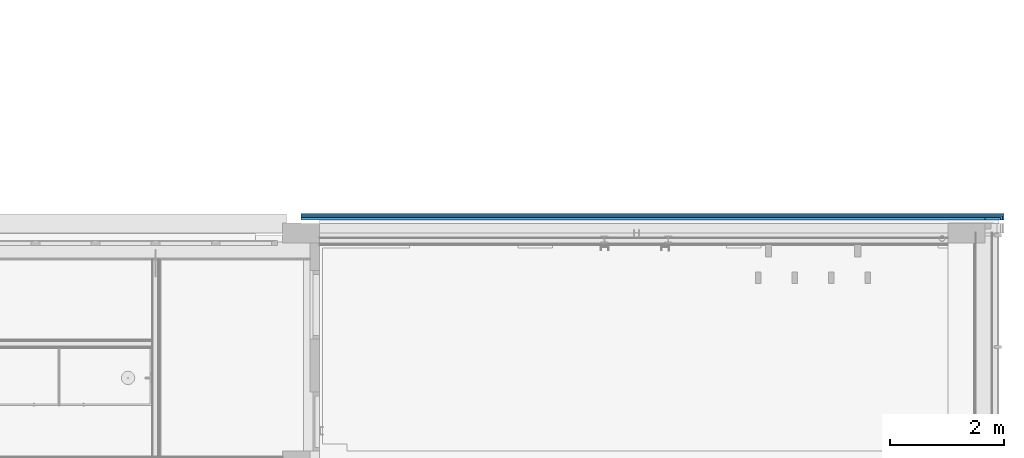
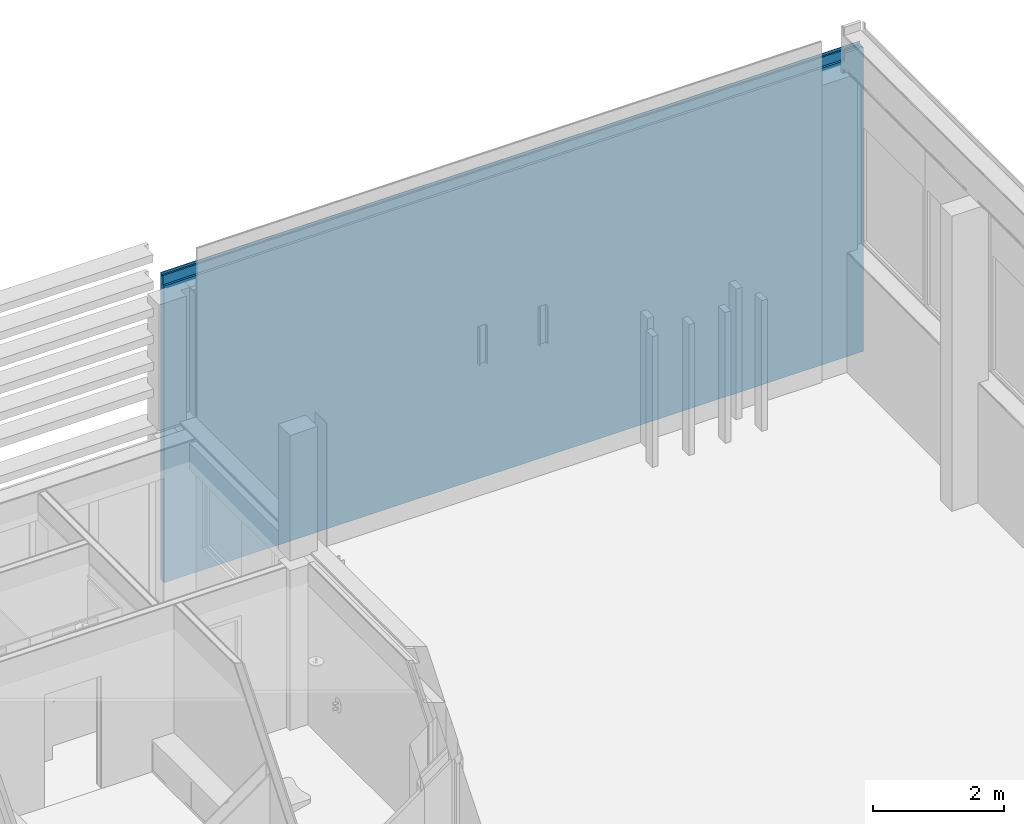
# One storey, part 84 of 109: 1 building element part, 1 element without a shape of its own.
"""IFC2X3 building model written with IfcOpenShell, lengths in millimetres."""

import ifcopenshell
import ifcopenshell.guid

model = None  # the IFC model being written
_history = None  # IfcOwnerHistory: only IFC2X3 demands one
_inside = {}  # id of a spatial element -> (the spatial element, [elements in it])
_under = {}  # id of a project, library or spatial element -> (it, [spatial elements below it])
_declared = {}  # id of a project -> (the project, [libraries it declares])
_typed = {}  # id of a type object -> (the type object, [elements of that type])
_made_of = {}  # id of a material, layer set ... -> (it, [elements and type objects made of it])


def new_model(schema):
    """Start an empty IFC model of exactly this schema.

    Asked for "IFC4X3", IfcOpenShell would pick the latest addendum, in which some entities
    have other attributes; the version numbers below select the first issue.
    IFC2X3 requires an IfcOwnerHistory on every rooted entity: one is made here for all.
    """
    global model, _history
    if schema == "IFC4X3":
        model = ifcopenshell.file(schema_version=(4, 3, 0, 0))
    else:
        model = ifcopenshell.file(schema=schema)
    _inside.clear()
    _under.clear()
    _declared.clear()
    _typed.clear()
    _made_of.clear()
    _history = None
    if model.schema == "IFC2X3":
        org = make("IfcOrganization", Name="unknown")
        user = make(
            "IfcPersonAndOrganization",
            ThePerson=make("IfcPerson", FamilyName="unknown"),
            TheOrganization=org,
        )
        app = make(
            "IfcApplication",
            ApplicationDeveloper=org,
            Version="unknown",
            ApplicationFullName="unknown",
            ApplicationIdentifier="unknown",
        )
        _history = make(
            "IfcOwnerHistory",
            OwningUser=user,
            OwningApplication=app,
            ChangeAction="ADDED",
            CreationDate=0,
        )
    return model


def make(cls, **values):
    """One entity of the class cls with the attributes given. An attribute that is None is left unset."""
    return model.create_entity(
        cls, **{name: value for name, value in values.items() if value is not None}
    )


def entity(cls, *values):
    """Any entity or typed value of the class cls, its attributes in the order of the schema. None: left unset."""
    e = model.create_entity(cls)
    for i, value in enumerate(values):
        if value is not None:
            e[i] = value
    return e


def rooted(cls, **values):
    """An entity with a GlobalId (a new one), such as an element, a storey or a relation."""
    return make(cls, GlobalId=ifcopenshell.guid.new(), OwnerHistory=_history, **values)


def si_unit(unit_type, name, prefix=None):
    """IfcSIUnit, for example si_unit("LENGTHUNIT", "METRE", prefix="MILLI")."""
    return make("IfcSIUnit", UnitType=unit_type, Prefix=prefix, Name=name)


def converted_unit(unit_type, name, factor, base, dimensions=None, offset=None):
    """IfcConversionBasedUnit, such as the inch: factor (a typed value) times the base unit."""
    return make(
        "IfcConversionBasedUnit"
        if offset is None
        else "IfcConversionBasedUnitWithOffset",
        ConversionOffset=offset,
        Dimensions=None
        if dimensions is None
        else entity("IfcDimensionalExponents", *dimensions),
        UnitType=unit_type,
        Name=name,
        ConversionFactor=make(
            "IfcMeasureWithUnit", ValueComponent=factor, UnitComponent=base
        ),
    )


def derived_unit(unit_type, elements):
    """IfcDerivedUnit: a product of units, each with its exponent."""
    return make(
        "IfcDerivedUnit",
        Elements=[
            make("IfcDerivedUnitElement", Unit=unit, Exponent=power)
            for unit, power in elements
        ],
        UnitType=unit_type,
    )


def money_unit(currency):
    """IfcMonetaryUnit."""
    return make("IfcMonetaryUnit", Currency=currency)


def assignment(units):
    """IfcUnitAssignment: the units of a project."""
    return None if units is None else make("IfcUnitAssignment", Units=units)


def point(xyz):
    """IfcCartesianPoint."""
    return None if xyz is None else make("IfcCartesianPoint", Coordinates=xyz)


def direction(xyz):
    """IfcDirection."""
    return None if xyz is None else make("IfcDirection", DirectionRatios=xyz)


def frame(location, z_axis=None, x_axis=None):
    """IfcAxis2Placement3D, a coordinate frame: its origin and axes. An axis left out is left unset."""
    return make(
        "IfcAxis2Placement3D",
        Location=point(location),
        Axis=direction(z_axis),
        RefDirection=direction(x_axis),
    )


def origin_with_axes():
    """The frame at (0, 0, 0) with the z axis (0, 0, 1) and the x axis (1, 0, 0) written out."""
    return frame((0.0, 0.0, 0.0), z_axis=(0.0, 0.0, 1.0), x_axis=(1.0, 0.0, 0.0))


def place(relative_to, where):
    """IfcLocalPlacement: puts the frame where relative to a parent placement (None: the world)."""
    return make(
        "IfcLocalPlacement", PlacementRelTo=relative_to, RelativePlacement=where
    )


def context(
    kind, dimensions, precision=None, world=None, true_north=None, identifier=None
):
    """IfcGeometricRepresentationContext, for example the 3D "Model" context."""
    return make(
        "IfcGeometricRepresentationContext",
        ContextIdentifier=identifier,
        ContextType=kind,
        CoordinateSpaceDimension=dimensions,
        Precision=precision,
        WorldCoordinateSystem=world,
        TrueNorth=true_north,
    )


def subcontext(parent, identifier, kind, view, scale=None):
    """IfcGeometricRepresentationSubContext, for example "Body" below "Model"."""
    return make(
        "IfcGeometricRepresentationSubContext",
        ContextIdentifier=identifier,
        ContextType=kind,
        ParentContext=parent,
        TargetScale=scale,
        TargetView=view,
    )


def project(units=None, contexts=None):
    """IfcProject with its units and contexts."""
    return rooted(
        "IfcProject",
        Name="project",
        RepresentationContexts=contexts,
        UnitsInContext=assignment(units),
    )


def spatial(cls, under=None, at=None, **own):
    """A site, building, storey or space (cls), placed at a placement, below another one or the project."""
    s = rooted(cls, ObjectPlacement=at, **own)
    if under is not None:
        _under.setdefault(under.id(), (under, []))[1].append(s)
    return s


def faces_of(points, faces, orient=None, outer=None):
    """IfcFace entities. A face is a list of loops; a loop is a list of indices into points, from 0.

    orient and outer hold one flag for each loop. By default every Orientation is true, the
    first loop of a face is its IfcFaceOuterBound and the others are IfcFaceBound.
    """
    made = []
    for i, loops in enumerate(faces):
        bounds = []
        for j, loop in enumerate(loops):
            is_outer = j == 0 if outer is None else outer[i][j]
            bounds.append(
                make(
                    "IfcFaceOuterBound" if is_outer else "IfcFaceBound",
                    Bound=make("IfcPolyLoop", Polygon=[points[k] for k in loop]),
                    Orientation=True if orient is None else orient[i][j],
                )
            )
        made.append(make("IfcFace", Bounds=bounds))
    return made


def faceted_brep(points, faces, orient=None, outer=None, voids=None):
    """IfcFacetedBrep: a solid bounded by flat faces; with voids (closed shells), ...WithVoids."""
    shared = [point(p) for p in points]
    hull = make("IfcClosedShell", CfsFaces=faces_of(shared, faces, orient, outer))
    if voids is None:
        return make("IfcFacetedBrep", Outer=hull)
    return make(
        "IfcFacetedBrepWithVoids",
        Outer=hull,
        Voids=[
            make(cls, CfsFaces=faces_of(shared, fs, o, b)) for cls, fs, o, b in voids
        ],
    )


def shape(context_of_items, identifier, shape_type, items):
    """IfcShapeRepresentation: the items that make up one representation, for example the "Body"."""
    return make(
        "IfcShapeRepresentation",
        ContextOfItems=context_of_items,
        RepresentationIdentifier=identifier,
        RepresentationType=shape_type,
        Items=items,
    )


def material(Name=None, Category=None):
    """IfcMaterial."""
    return make("IfcMaterial", Name=Name, Category=Category)


def made_of(thing, what):
    """Note that an element or type object is made of a material, layer set ...; save() writes the relation."""
    if what is not None:
        _made_of.setdefault(what.id(), (what, []))[1].append(thing)
    return thing


def type_object(cls, material=None, **own):
    """A type object (cls), such as IfcWallType, which elements share."""
    return made_of(rooted(cls, **own), material)


def element(
    cls,
    number,
    at=None,
    inside=None,
    cuts=None,
    type_object=None,
    material=None,
    context=None,
    identifier="Body",
    shape_type=None,
    held_by="IfcProductDefinitionShape",
    body=None,
    shapes=None,
    **own,
):
    """One element of the class cls, such as IfcWall. Its Tag is "e" and its number.

    at: its placement. inside: the storey or other place that contains it. cuts: it is an
    opening in that element (IfcRelVoidsElement). A single representation is given by context,
    identifier, shape_type and body (its items); several are given by shapes. held_by: the class
    of the entity that holds the representations. save() writes the other relations.
    """
    e = rooted(cls, Tag="e%d" % number, ObjectPlacement=at, **own)
    if body is not None:
        shapes = [shape(context, identifier, shape_type, body)]
    if shapes is not None:
        e.Representation = make(held_by, Representations=shapes)
    if inside is not None:
        _inside.setdefault(inside.id(), (inside, []))[1].append(e)
    if cuts is not None:
        rooted(
            "IfcRelVoidsElement", RelatingBuildingElement=cuts, RelatedOpeningElement=e
        )
    if type_object is not None:
        _typed.setdefault(type_object.id(), (type_object, []))[1].append(e)
    return made_of(e, material)


def aggregate(whole, parts):
    """IfcRelAggregates: a whole, such as a stair, and the parts it consists of."""
    return rooted("IfcRelAggregates", RelatingObject=whole, RelatedObjects=parts)


def save(model, path):
    """Write the relations noted so far, then the file.

    IfcRelAggregates (storeys below a building ...), IfcRelContainedInSpatialStructure (elements
    in a storey), IfcRelDefinesByType, IfcRelAssociatesMaterial and IfcRelDeclares: one each for
    every whole, place, type object, material and project.
    """
    for whole, parts in _under.values():
        aggregate(whole, parts)
    for where, things in _inside.values():
        rooted(
            "IfcRelContainedInSpatialStructure",
            RelatedElements=things,
            RelatingStructure=where,
        )
    for kind, things in _typed.values():
        rooted("IfcRelDefinesByType", RelatedObjects=things, RelatingType=kind)
    for what, things in _made_of.values():
        rooted("IfcRelAssociatesMaterial", RelatedObjects=things, RelatingMaterial=what)
    for by, libraries in _declared.values():
        rooted("IfcRelDeclares", RelatingContext=by, RelatedDefinitions=libraries)
    model.write(path)


model = new_model("IFC2X3")

# Units and contexts
model_context = context("Model", 3, precision=0.01, world=origin_with_axes(), true_north=direction((0.0, 1.0)))
body_context = subcontext(model_context, "Body", "Model", "MODEL_VIEW")
ifc_project = project(units=[si_unit("LENGTHUNIT", "METRE", prefix="MILLI"), si_unit("AREAUNIT", "SQUARE_METRE"), si_unit("VOLUMEUNIT", "CUBIC_METRE"), converted_unit("PLANEANGLEUNIT", "DEGREE", entity("IfcPlaneAngleMeasure", 0.0174532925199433), si_unit("PLANEANGLEUNIT", "RADIAN"), dimensions=[0, 0, 0, 0, 0, 0, 0]), money_unit("EUR"), converted_unit("TIMEUNIT", "Year", entity("IfcTimeMeasure", 31557600.0), si_unit("TIMEUNIT", "SECOND"), dimensions=[0, 0, 1, 0, 0, 0, 0]), si_unit("MASSUNIT", "GRAM", prefix="KILO"), si_unit("THERMODYNAMICTEMPERATUREUNIT", "DEGREE_CELSIUS"), si_unit("LUMINOUSINTENSITYUNIT", "LUMEN"), si_unit("ENERGYUNIT", "JOULE", prefix="MEGA"), derived_unit("THERMALCONDUCTANCEUNIT", [(si_unit("POWERUNIT", "WATT"), 1), (si_unit("LENGTHUNIT", "METRE"), -1), (si_unit("THERMODYNAMICTEMPERATUREUNIT", "KELVIN"), -1)]), derived_unit("SPECIFICHEATCAPACITYUNIT", [(si_unit("ENERGYUNIT", "JOULE"), 1), (si_unit("MASSUNIT", "GRAM", prefix="KILO"), -1), (si_unit("THERMODYNAMICTEMPERATUREUNIT", "KELVIN"), -1)]), derived_unit("MASSDENSITYUNIT", [(si_unit("MASSUNIT", "GRAM", prefix="KILO"), 1), (si_unit("VOLUMEUNIT", "CUBIC_METRE"), -1)])], contexts=[model_context])

# Site, building, storey
site_placement = place(None, origin_with_axes())
site = spatial("IfcSite", under=ifc_project, at=site_placement, Name="<site naam>", CompositionType="ELEMENT")
building_placement = place(site_placement, origin_with_axes())
building = spatial("IfcBuilding", under=site, at=building_placement, Name="<Naam gebouw>", CompositionType="ELEMENT")
storey_placement = place(building_placement, origin_with_axes())
storey = spatial("IfcBuildingStorey", under=building, at=storey_placement, Name="00 Begane grond", CompositionType="ELEMENT", Elevation=0.0)

# Wall, building element part
wall_type = type_object("IfcWallType", Name="metselwerk-lucht-kalkzandsteen 335 335", PredefinedType="NOTDEFINED")
wall_placement = place(storey_placement, frame((70310.0, 20334.99999999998, -30.0), z_axis=(0.0, 0.0, 1.0), x_axis=(-1.0, 0.0, 0.0)))
wall = element("IfcWall", 1, at=wall_placement, inside=storey, type_object=wall_type, Name="21_Binnenwand_metselwerk-lucht-kalkzandsteen")
ifc_material = material(Name="metselwerk AFW")
building_element_part_placement = place(wall_placement, origin_with_axes())
building_element_part = element("IfcBuildingElementPart", 2, at=building_element_part_placement, material=ifc_material, Name="metselwerk AFW", context=body_context, shape_type="Brep", body=[
    faceted_brep([(12309.99999999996, 0.0, 5715.000003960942), (12309.99999999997, 10.00000108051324, 5715.000003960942), (2.420890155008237e-06, 10.00000108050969, 5715.000003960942), (0.0, 0.0, 5715.000003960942), (12309.99999999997, 40.00000338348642, 5665.000062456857), (12309.99999999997, 10.00000108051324, 5665.000062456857), (12309.99999999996, 0.0, 0.0), (12309.99999999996, 109.9999999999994, 0.0), (12309.99999999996, 109.9999999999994, 5524.999999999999), (12309.99999999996, 70.00000000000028, 5524.999999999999), (12309.99999999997, 69.99999436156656, 5665.000062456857), (12309.99999999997, 69.99999436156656, 5694.999985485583), (12309.99999999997, 40.00000338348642, 5694.999985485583), (2.420890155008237e-06, 10.00000108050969, 5665.000062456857), (2.420890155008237e-06, 109.9999999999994, 5665.000062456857), (0.0, 109.9999999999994, 0.0), (0.0, 0.0, 0.0), (30.00000472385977, 40.00000338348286, 5665.000062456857), (30.00000472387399, 109.9999999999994, 5665.000062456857), (59.99999570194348, 109.9999999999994, 5665.000062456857), (334.9999999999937, 109.9999999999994, 5665.000062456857), (334.9999999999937, 109.9999999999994, 5524.999999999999), (30.00000472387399, 109.9999999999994, 5694.999985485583), (59.99999570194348, 109.9999999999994, 5694.999985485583), (334.9999999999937, 70.00000000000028, 5524.999999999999), (334.9999999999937, 69.99999436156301, 5665.000062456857), (59.99999570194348, 69.99999436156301, 5665.000062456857), (59.99999570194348, 69.99999436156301, 5694.999985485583), (30.00000472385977, 40.00000338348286, 5694.999985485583)], [[[0, 1, 2, 3]], [[4, 5, 1, 0, 6, 7, 8, 9, 10, 11, 12]], [[5, 13, 2, 1]], [[3, 2, 13, 14, 15, 16]], [[3, 16, 6, 0]], [[14, 13, 5, 4, 17, 18]], [[16, 15, 7, 6]], [[19, 20, 21, 8, 7, 15, 14, 18, 22, 23]], [[9, 8, 21, 24]], [[24, 25, 26, 27, 11, 10, 9]], [[22, 28, 12, 11, 27, 23]], [[12, 28, 17, 4]], [[18, 17, 28, 22]], [[19, 26, 25, 20]], [[21, 20, 25, 24]], [[23, 27, 26, 19]]]),
])
aggregate(wall, [building_element_part])

save(model, "model.ifc")
